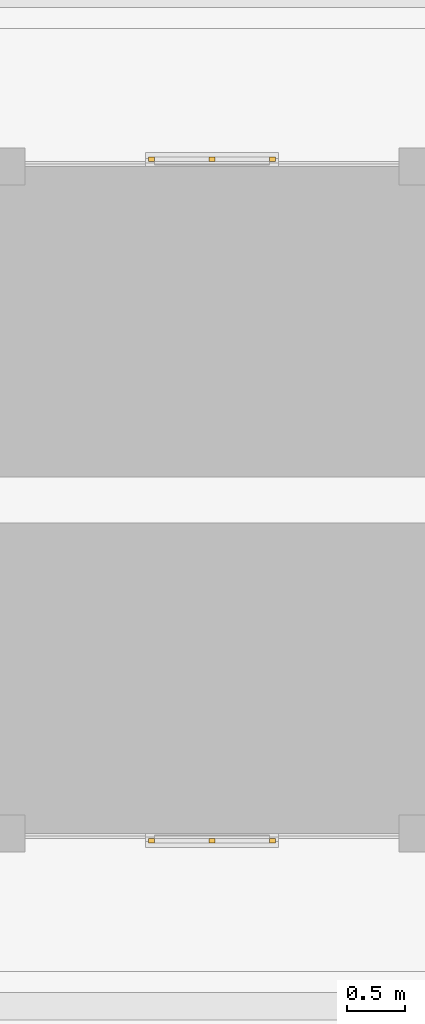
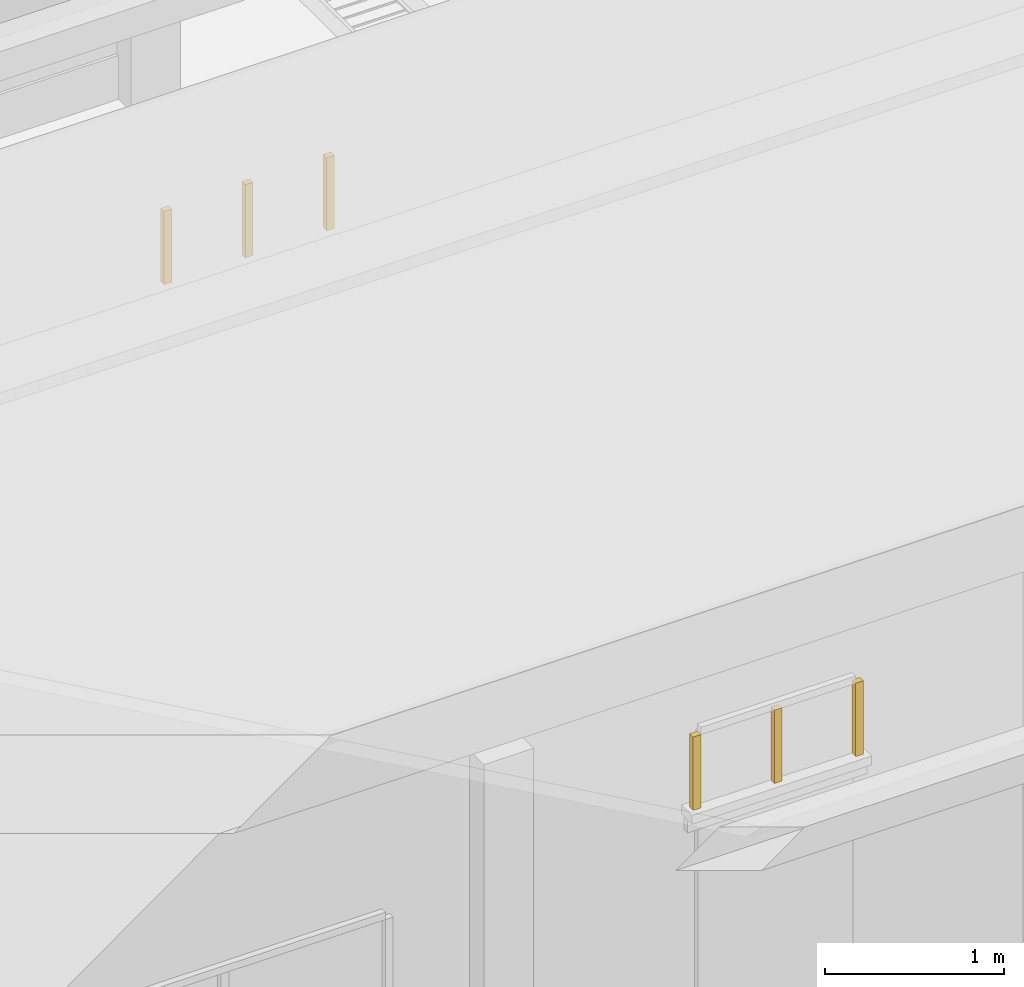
# One storey, part 70 of 166: 6 windows.
"""IFC2X3 building model written with IfcOpenShell, lengths in metres."""

from ifc_helpers import new_model, si_unit, origin, origin_with_axes, place, context, subcontext, project, spatial, faceted_brep, element, save


model = new_model("IFC2X3")

# Units and contexts
model_context = context("Model", 3, precision=1e-05, world=origin_with_axes())
body_context = subcontext(model_context, "Body", "Model", "MODEL_VIEW")
ifc_project = project(units=[si_unit("LENGTHUNIT", "METRE"), si_unit("AREAUNIT", "SQUARE_METRE"), si_unit("VOLUMEUNIT", "CUBIC_METRE"), si_unit("PLANEANGLEUNIT", "RADIAN")], contexts=[model_context])

# Site, building, storey
site_placement = place(None, origin_with_axes())
site = spatial("IfcSite", under=ifc_project, at=site_placement, Name="Predio Los Mangos - Morales, San Martín", CompositionType="ELEMENT")
building_placement = place(site_placement, origin())
building = spatial("IfcBuilding", under=site, at=building_placement, Name="Hogar de Refugio Temporal", CompositionType="ELEMENT")
storey_placement = place(building_placement, origin())
storey = spatial("IfcBuildingStorey", under=building, at=storey_placement, Name="NIVEL 1 (NPT +0.00)", CompositionType="ELEMENT", Elevation=0.0)

# Windows
window_1_placement = place(storey_placement, origin())
element("IfcWindow", 1, at=window_1_placement, inside=storey, Name="E-03_vt1_m", ObjectType="Ventana", context=body_context, shape_type="Brep", body=[
    faceted_brep([(50.1125, 32.42, 2.45), (50.1125, 32.46, 2.45), (50.1625, 32.46, 2.45), (50.1625, 32.42, 2.45), (50.1125, 32.42, 2.95), (50.1625, 32.42, 2.95), (50.1625, 32.46, 2.95), (50.1125, 32.46, 2.95)], [[[0, 1, 2, 3]], [[4, 5, 6, 7]], [[0, 3, 5, 4]], [[3, 2, 6, 5]], [[2, 1, 7, 6]], [[1, 0, 4, 7]]]),
])
window_2_placement = place(storey_placement, origin())
element("IfcWindow", 2, at=window_2_placement, inside=storey, Name="E-03_vt1_m", ObjectType="Ventana", context=body_context, shape_type="Brep", body=[
    faceted_brep([(51.1625, 32.42, 2.45), (51.1625, 32.46, 2.45), (51.2125, 32.46, 2.45), (51.2125, 32.42, 2.45), (51.1625, 32.42, 2.95), (51.2125, 32.42, 2.95), (51.2125, 32.46, 2.95), (51.1625, 32.46, 2.95)], [[[0, 1, 2, 3]], [[4, 5, 6, 7]], [[0, 3, 5, 4]], [[3, 2, 6, 5]], [[2, 1, 7, 6]], [[1, 0, 4, 7]]]),
])
window_3_placement = place(storey_placement, origin())
element("IfcWindow", 3, at=window_3_placement, inside=storey, Name="E-03_vt1_m", ObjectType="Ventana", context=body_context, shape_type="Brep", body=[
    faceted_brep([(50.6375, 32.42, 2.45), (50.6375, 32.46, 2.45), (50.6875, 32.46, 2.45), (50.6875, 32.42, 2.45), (50.6375, 32.42, 2.95), (50.6875, 32.42, 2.95), (50.6875, 32.46, 2.95), (50.6375, 32.46, 2.95)], [[[0, 1, 2, 3]], [[4, 5, 6, 7]], [[0, 3, 5, 4]], [[3, 2, 6, 5]], [[2, 1, 7, 6]], [[1, 0, 4, 7]]]),
])
window_4_placement = place(storey_placement, origin())
element("IfcWindow", 4, at=window_4_placement, inside=storey, Name="E-03_vt1_m", ObjectType="Ventana", context=body_context, shape_type="Brep", body=[
    faceted_brep([(50.1125, 38.34, 2.45), (50.1125, 38.38, 2.45), (50.1625, 38.38, 2.45), (50.1625, 38.34, 2.45), (50.1125, 38.34, 2.95), (50.1625, 38.34, 2.95), (50.1625, 38.38, 2.95), (50.1125, 38.38, 2.95)], [[[0, 1, 2, 3]], [[4, 5, 6, 7]], [[0, 3, 5, 4]], [[3, 2, 6, 5]], [[2, 1, 7, 6]], [[1, 0, 4, 7]]]),
])
window_5_placement = place(storey_placement, origin())
element("IfcWindow", 5, at=window_5_placement, inside=storey, Name="E-03_vt1_m", ObjectType="Ventana", context=body_context, shape_type="Brep", body=[
    faceted_brep([(51.1625, 38.34, 2.45), (51.1625, 38.38, 2.45), (51.2125, 38.38, 2.45), (51.2125, 38.34, 2.45), (51.1625, 38.34, 2.95), (51.2125, 38.34, 2.95), (51.2125, 38.38, 2.95), (51.1625, 38.38, 2.95)], [[[0, 1, 2, 3]], [[4, 5, 6, 7]], [[0, 3, 5, 4]], [[3, 2, 6, 5]], [[2, 1, 7, 6]], [[1, 0, 4, 7]]]),
])
window_6_placement = place(storey_placement, origin())
element("IfcWindow", 6, at=window_6_placement, inside=storey, Name="E-03_vt1_m", ObjectType="Ventana", context=body_context, shape_type="Brep", body=[
    faceted_brep([(50.6375, 38.34, 2.45), (50.6375, 38.38, 2.45), (50.6875, 38.38, 2.45), (50.6875, 38.34, 2.45), (50.6375, 38.34, 2.95), (50.6875, 38.34, 2.95), (50.6875, 38.38, 2.95), (50.6375, 38.38, 2.95)], [[[0, 1, 2, 3]], [[4, 5, 6, 7]], [[0, 3, 5, 4]], [[3, 2, 6, 5]], [[2, 1, 7, 6]], [[1, 0, 4, 7]]]),
])

save(model, "model.ifc")
